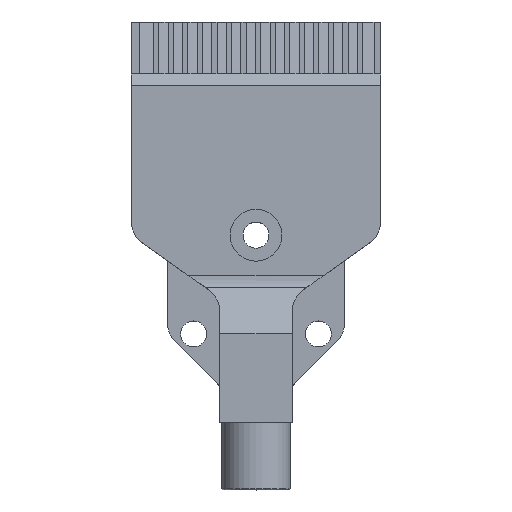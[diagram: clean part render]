
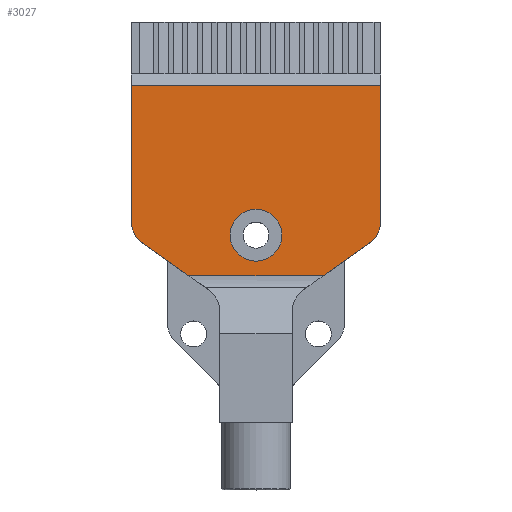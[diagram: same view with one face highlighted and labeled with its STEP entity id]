
A CAD part, top view. The second image highlights one B-rep face of the part: STEP entity #3027.
In plain terms, the highlighted planar face has unit normal (0, 0, 1).
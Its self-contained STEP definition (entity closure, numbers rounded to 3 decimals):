
#352=LINE('',#4751,#739);
#357=LINE('',#4761,#744);
#358=LINE('',#4765,#745);
#359=LINE('',#4767,#746);
#360=LINE('',#4769,#747);
#361=LINE('',#4772,#748);
#739=VECTOR('',#3901,48.);
#744=VECTOR('',#3910,26.244);
#745=VECTOR('',#3913,10.969);
#746=VECTOR('',#3914,25.844);
#747=VECTOR('',#3915,10.969);
#748=VECTOR('',#3918,26.244);
#802=FACE_BOUND('',#1147,.T.);
#969=FACE_OUTER_BOUND('',#1146,.T.);
#1146=EDGE_LOOP('',(#2573,#2574,#2575,#2576,#2577,#2578,#2579,#2580));
#1147=EDGE_LOOP('',(#2581));
#1189=CIRCLE('',#3065,5.);
#1196=CIRCLE('',#3213,5.);
#1197=CIRCLE('',#3214,5.);
#1216=VERTEX_POINT('',#4066);
#1422=VERTEX_POINT('',#4748);
#1423=VERTEX_POINT('',#4750);
#1426=VERTEX_POINT('',#4760);
#1427=VERTEX_POINT('',#4762);
#1428=VERTEX_POINT('',#4764);
#1429=VERTEX_POINT('',#4766);
#1430=VERTEX_POINT('',#4768);
#1431=VERTEX_POINT('',#4770);
#1479=EDGE_CURVE('',#1216,#1216,#1189,.T.);
#1817=EDGE_CURVE('',#1422,#1423,#352,.T.);
#1822=EDGE_CURVE('',#1426,#1422,#357,.T.);
#1823=EDGE_CURVE('',#1427,#1426,#1196,.T.);
#1824=EDGE_CURVE('',#1428,#1427,#358,.T.);
#1825=EDGE_CURVE('',#1428,#1429,#359,.T.);
#1826=EDGE_CURVE('',#1430,#1429,#360,.T.);
#1827=EDGE_CURVE('',#1431,#1430,#1197,.T.);
#1828=EDGE_CURVE('',#1423,#1431,#361,.T.);
#2573=ORIENTED_EDGE('',*,*,#1822,.F.);
#2574=ORIENTED_EDGE('',*,*,#1823,.F.);
#2575=ORIENTED_EDGE('',*,*,#1824,.F.);
#2576=ORIENTED_EDGE('',*,*,#1825,.T.);
#2577=ORIENTED_EDGE('',*,*,#1826,.F.);
#2578=ORIENTED_EDGE('',*,*,#1827,.F.);
#2579=ORIENTED_EDGE('',*,*,#1828,.F.);
#2580=ORIENTED_EDGE('',*,*,#1817,.F.);
#2581=ORIENTED_EDGE('',*,*,#1479,.T.);
#2867=PLANE('',#3212);
#3027=ADVANCED_FACE('',(#969,#802),#2867,.F.);
#3065=AXIS2_PLACEMENT_3D('',#4067,#3278,#3279);
#3212=AXIS2_PLACEMENT_3D('',#4759,#3908,#3909);
#3213=AXIS2_PLACEMENT_3D('',#4763,#3911,#3912);
#3214=AXIS2_PLACEMENT_3D('',#4771,#3916,#3917);
#3278=DIRECTION('center_axis',(0.,0.,-1.));
#3279=DIRECTION('ref_axis',(-1.,0.,0.));
#3901=DIRECTION('',(1.,0.,0.));
#3908=DIRECTION('center_axis',(0.,0.,-1.));
#3909=DIRECTION('ref_axis',(0.,1.,0.));
#3910=DIRECTION('',(0.,1.,0.));
#3911=DIRECTION('center_axis',(0.,0.,-1.));
#3912=DIRECTION('ref_axis',(-1.,0.,0.));
#3913=DIRECTION('',(-0.817,0.577,0.));
#3914=DIRECTION('',(1.,0.,0.));
#3915=DIRECTION('',(-0.817,-0.577,0.));
#3916=DIRECTION('center_axis',(0.,0.,-1.));
#3917=DIRECTION('ref_axis',(0.577,-0.817,0.));
#3918=DIRECTION('',(0.,-1.,0.));
#4066=CARTESIAN_POINT('',(5.,48.998,2.));
#4067=CARTESIAN_POINT('Origin',(0.,48.998,2.));
#4748=CARTESIAN_POINT('',(-24.,77.835,2.));
#4750=CARTESIAN_POINT('',(24.,77.835,2.));
#4751=CARTESIAN_POINT('',(0.,77.835,2.));
#4759=CARTESIAN_POINT('Origin',(0.,41.18,2.));
#4760=CARTESIAN_POINT('',(-24.,51.591,2.));
#4761=CARTESIAN_POINT('',(-24.,65.59,2.));
#4762=CARTESIAN_POINT('',(-21.883,47.506,2.));
#4763=CARTESIAN_POINT('Origin',(-19.,51.591,2.));
#4764=CARTESIAN_POINT('',(-12.922,41.18,2.));
#4765=CARTESIAN_POINT('',(-13.09,41.299,2.));
#4766=CARTESIAN_POINT('',(12.922,41.18,2.));
#4767=CARTESIAN_POINT('',(0.,41.18,2.));
#4768=CARTESIAN_POINT('',(21.883,47.506,2.));
#4769=CARTESIAN_POINT('',(6.707,36.793,2.));
#4770=CARTESIAN_POINT('',(24.,51.591,2.));
#4771=CARTESIAN_POINT('Origin',(19.,51.591,2.));
#4772=CARTESIAN_POINT('',(24.,46.386,2.));
